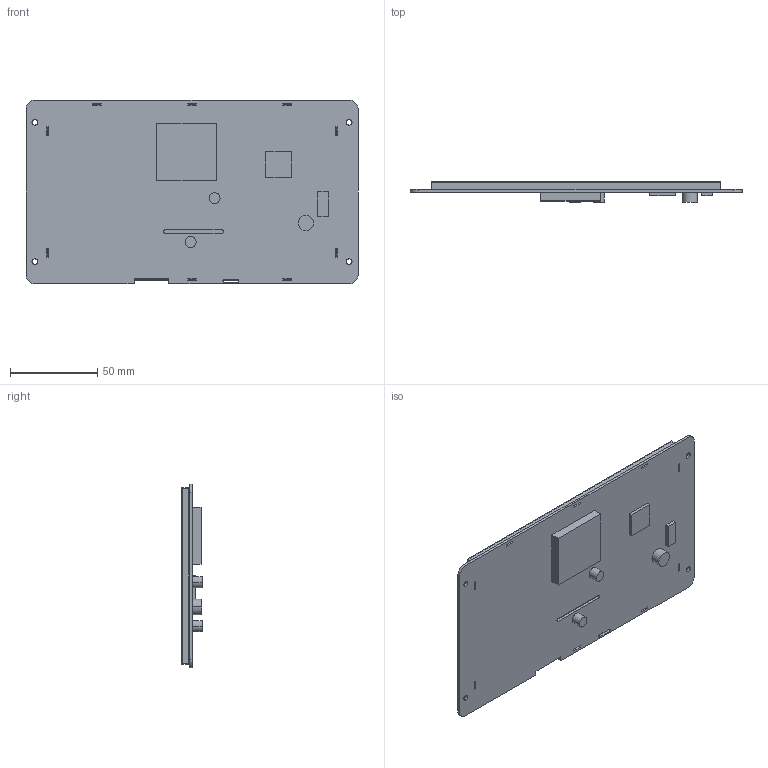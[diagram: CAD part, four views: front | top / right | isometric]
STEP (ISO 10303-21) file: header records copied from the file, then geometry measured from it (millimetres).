
FILE_DESCRIPTION((''),'2;1');
FILE_NAME('DMG10600C070-03WTC_ASM','2022-02-10T',('Administrator'),(''),'PRO/ENGINEER BY PARAMETRIC TECHNOLOGY CORPORATION, 2014320','PRO/ENGINEER BY PARAMETRIC TECHNOLOGY CORPORATION, 2014320','');
FILE_SCHEMA(('CONFIG_CONTROL_DESIGN','SHAPE_APPEARANCE_LAYERS_GROUPS'));
Length unit declared in the file: millimetre
Products named in the file (4): TK070011; COMWIN070HI213550408B; PCB; DMG10600C070-03WTC_ASM
Assembly tree (3 placements, depth 2):
  DMG10600C070-03WTC_ASM
    TK070011
    COMWIN070HI213550408B
    PCB
Bounding box: 190.5 x 11.8 x 105.41 mm (x, y, z)
Volume: 97140 mm3; surface area: 87858.2 mm2
Topology: 3 solids, 3 shells, 142 faces, 372 edges, 248 vertices
Faces by surface type: plane 120, cylinder 22
Entity records: 4677 total; most frequent: CARTESIAN_POINT 769, ORIENTED_EDGE 744, DIRECTION 714, EDGE_CURVE 372, VECTOR 328, LINE 328, VERTEX_POINT 248, AXIS2_PLACEMENT_3D 193
